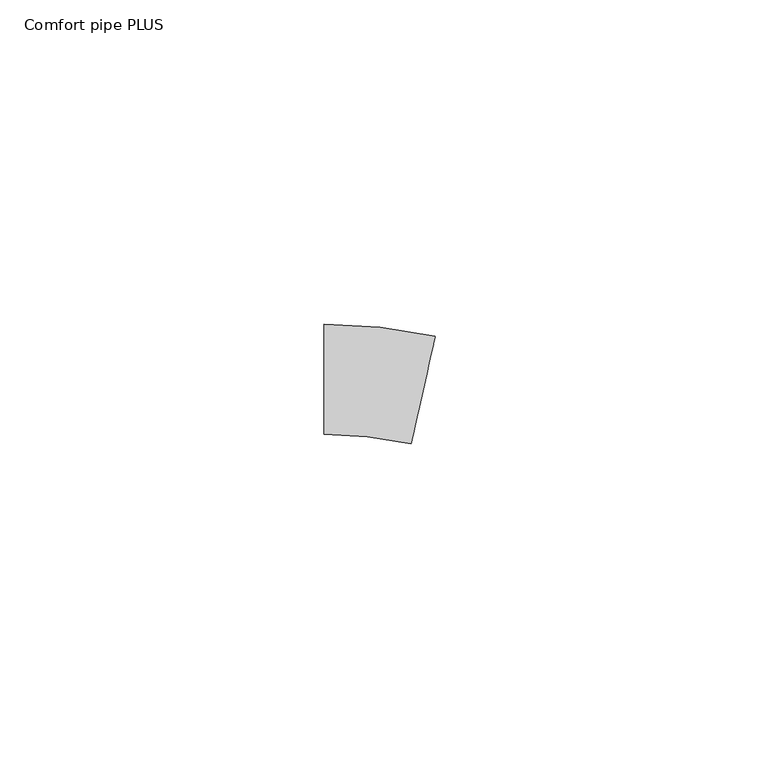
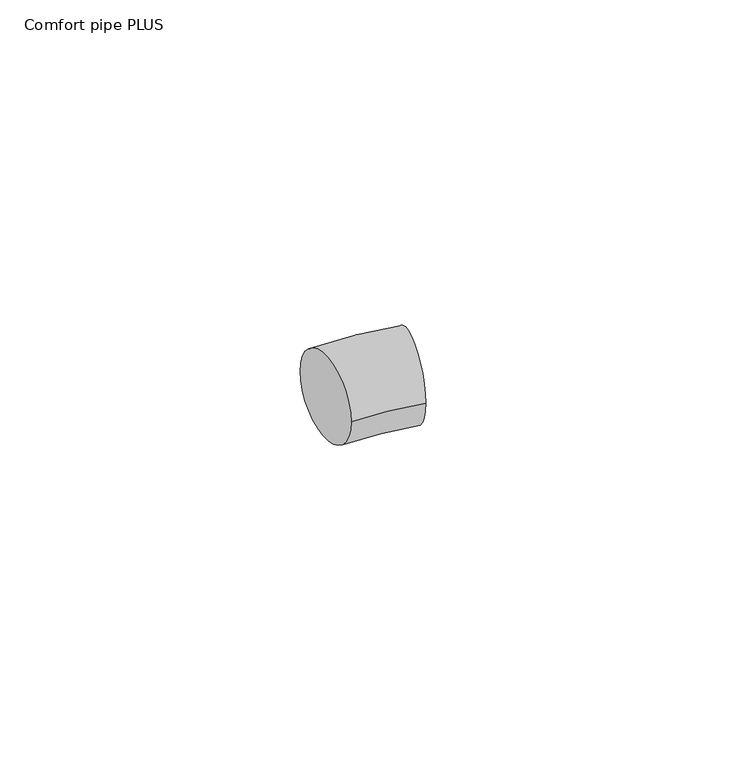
"""IFC4 building model written with IfcOpenShell, lengths in millimetres: pipe fitting geometry, 400_5-_Uponor_curved_Elbow : Comfort pipe PLUS."""

from ifc_helpers import new_model, si_unit, point, frame, origin, place, context, project, spatial, circle_curve, ellipse_curve, trimmed, source, transform, mapped, element, save
from ifc_brep_helpers import plane_surface, revolved_surface, advanced_brep


def comfort_pipe_plus_407e4f54(model_context):
    return source(origin(), model_context, "Body", "AdvancedBrep", [
        advanced_brep(
        [(-7.7490412, 8.5, 0.0), (-7.7490412, -8.5, 0.0), (9.4205444, 6.5993168, 0.0), (5.7022902, -9.9890703, 0.0)],
        [
            (0, 1, circle_curve(frame((-7.7490412, 0.0, 0.0), z_axis=(-1.0, 0.0, 0.0), x_axis=(0.0, -1.0, 0.0)), 8.5)),
            (1, 0, circle_curve(frame((-7.7490412, 0.0, 0.0), z_axis=(-1.0, 0.0, 0.0), x_axis=(0.0, -1.0, 0.0)), 8.5)),
            (2, 3, circle_curve(frame((7.5614173, -1.6948768, 0.0), z_axis=(0.9757874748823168, -0.21872083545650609, 0.0), x_axis=(-0.21872083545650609, -0.9757874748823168, 0.0)), 8.5)),
            (3, 2, circle_curve(frame((7.5614173, -1.6948768, 0.0), z_axis=(0.9757874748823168, -0.21872083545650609, 0.0), x_axis=(-0.21872083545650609, -0.9757874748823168, 0.0)), 8.5)),
            (2, 0, circle_curve(frame((-7.7490412, -70.0, 0.0), z_axis=(0.0, 0.0, 1.0), x_axis=(0.0, 1.0, 0.0)), 78.5)),
            (1, 3, circle_curve(frame((-7.7490412, -70.0, 0.0), z_axis=(0.0, 0.0, -1.0), x_axis=(0.0, 1.0, 0.0)), 61.5)),
        ],
        [
            plane_surface(frame((-7.7490412, 0.0, 0.0), z_axis=(-1.0, 0.0, 0.0), x_axis=(0.0, 0.0, 1.0))),
            plane_surface(frame((7.5614173, -1.6948768, 0.0), z_axis=(0.9757874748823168, -0.2187208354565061, 0.0), x_axis=(0.0, 0.0, 1.0))),
            revolved_surface(trimmed(ellipse_curve(frame((-7.7490412, 0.0, 0.0), z_axis=(1.0, 0.0, 0.0), x_axis=(0.0, -1.0, 0.0)), 8.5, 8.5), [point((-7.7490412, 8.5, 0.0))], [point((-7.7490412, -8.5, 0.0))], True, "CARTESIAN"), (-7.7490412, -70.0, 0.0), (0.0, 0.0, 1.0)),
            revolved_surface(trimmed(ellipse_curve(frame((-7.7490412, 0.0, 0.0), z_axis=(1.0, 0.0, 0.0), x_axis=(0.0, -1.0, 0.0)), 8.5, 8.5), [point((-7.7490412, -8.5, 0.0))], [point((-7.7490412, 8.5, 0.0))], True, "CARTESIAN"), (-7.7490412, -70.0, 0.0), (0.0, 0.0, 1.0)),
        ],
        [
            (0, [[1, 2]]),
            (1, [[3, 4]]),
            (2, [[-3, 5, -2, 6]]),
            (3, [[-4, -6, -1, -5]]),
        ],
    ),
    ])


if __name__ == "__main__":
    model = new_model("IFC4")
    model_context = context("Model", 3, world=origin())
    ifc_project = project(units=[si_unit("LENGTHUNIT", "METRE", prefix="MILLI")], contexts=[model_context])
    site = spatial("IfcSite", under=ifc_project)
    building = spatial("IfcBuilding", under=site)
    placement = place(None, origin())
    comfort_pipe_plus_shape = comfort_pipe_plus_407e4f54(model_context)
    element("IfcPipeFitting", 1, ObjectType="400_5-_Uponor_curved_Elbow : Comfort pipe PLUS", at=placement, inside=building, context=model_context, shape_type="MappedRepresentation", body=[
        mapped(comfort_pipe_plus_shape, transform((0.0, 0.0, 0.0), x_axis=(1.0, 0.0, 0.0), y_axis=(0.0, 1.0, 0.0), z_axis=(0.0, 0.0, 1.0))),
    ])
    save(model, "model.ifc")
